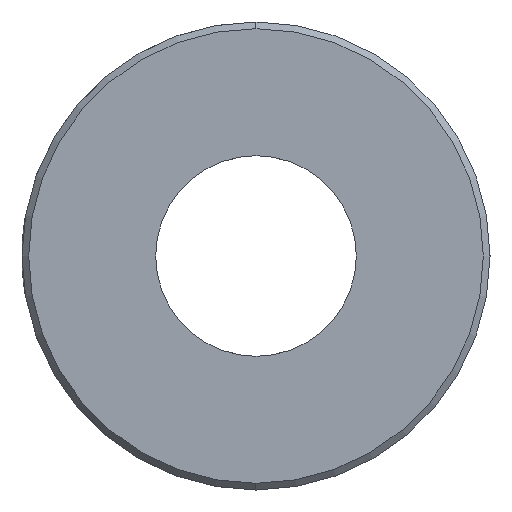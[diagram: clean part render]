
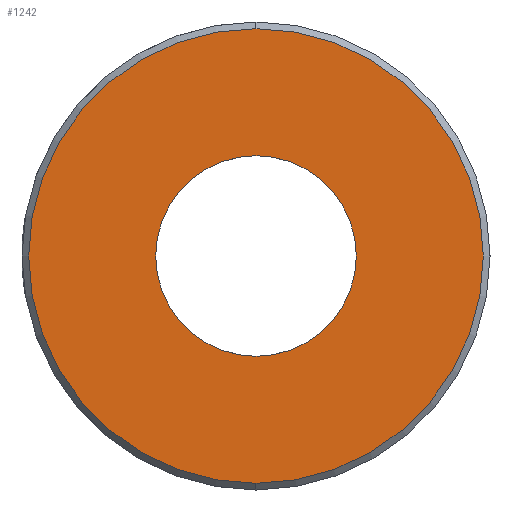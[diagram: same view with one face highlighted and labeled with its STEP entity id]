
A CAD part, left-side view. The second image highlights one B-rep face of the part: STEP entity #1242.
In plain terms, the highlighted planar face has unit normal (-1, 0, 0) as drawn and (0, 0, 1) by its records, which use the part's own axes.
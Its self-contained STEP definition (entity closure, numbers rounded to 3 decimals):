
#87 = ORIENTED_EDGE ( 'NONE', *, *, #1438, .T. ) ;
#113 = ORIENTED_EDGE ( 'NONE', *, *, #399, .F. ) ;
#142 = VERTEX_POINT ( 'NONE', #639 ) ;
#155 = VERTEX_POINT ( 'NONE', #610 ) ;
#156 = DIRECTION ( 'NONE',  ( 1., 0., 0. ) ) ;
#170 = CARTESIAN_POINT ( 'NONE',  ( 0., 0., 2.8 ) ) ;
#177 = CARTESIAN_POINT ( 'NONE',  ( 0., 0., 2.8 ) ) ;
#191 = ORIENTED_EDGE ( 'NONE', *, *, #1826, .T. ) ;
#273 = CIRCLE ( 'NONE', #1380, 6.8 ) ;
#331 = CARTESIAN_POINT ( 'NONE',  ( 6.8, 0., 2.8 ) ) ;
#399 = EDGE_CURVE ( 'NONE', #155, #644, #1758, .T. ) ;
#436 = FACE_OUTER_BOUND ( 'NONE', #1417, .T. ) ;
#539 = VERTEX_POINT ( 'NONE', #331 ) ;
#562 = DIRECTION ( 'NONE',  ( 0., 0., 1. ) ) ;
#590 = DIRECTION ( 'NONE',  ( 0., 0., 1. ) ) ;
#610 = CARTESIAN_POINT ( 'NONE',  ( -3., 0., 2.8 ) ) ;
#639 = CARTESIAN_POINT ( 'NONE',  ( -6.8, 0., 2.8 ) ) ;
#644 = VERTEX_POINT ( 'NONE', #1238 ) ;
#683 = CARTESIAN_POINT ( 'NONE',  ( 0., 0., 2.8 ) ) ;
#692 = AXIS2_PLACEMENT_3D ( 'NONE', #170, #590, #970 ) ;
#737 = ORIENTED_EDGE ( 'NONE', *, *, #1709, .F. ) ;
#751 = CIRCLE ( 'NONE', #1782, 3. ) ;
#970 = DIRECTION ( 'NONE',  ( 1., 0., 0. ) ) ;
#1017 = DIRECTION ( 'NONE',  ( 1., 0., 0. ) ) ;
#1029 = DIRECTION ( 'NONE',  ( 1., 0., 0. ) ) ;
#1101 = EDGE_LOOP ( 'NONE', ( #113, #737 ) ) ;
#1159 = CARTESIAN_POINT ( 'NONE',  ( 0., 0., 2.8 ) ) ;
#1178 = DIRECTION ( 'NONE',  ( 0., 0., 1. ) ) ;
#1214 = DIRECTION ( 'NONE',  ( 0., 0., 1. ) ) ;
#1238 = CARTESIAN_POINT ( 'NONE',  ( 3., 0., 2.8 ) ) ;
#1242 = ADVANCED_FACE ( 'NONE', ( #436, #1598 ), #1468, .T. ) ;
#1253 = AXIS2_PLACEMENT_3D ( 'NONE', #683, #562, #1275 ) ;
#1275 = DIRECTION ( 'NONE',  ( 1., 0., 0. ) ) ;
#1329 = CARTESIAN_POINT ( 'NONE',  ( 0., 0., 2.8 ) ) ;
#1380 = AXIS2_PLACEMENT_3D ( 'NONE', #1329, #1597, #156 ) ;
#1412 = AXIS2_PLACEMENT_3D ( 'NONE', #1159, #1178, #1017 ) ;
#1417 = EDGE_LOOP ( 'NONE', ( #87, #191 ) ) ;
#1438 = EDGE_CURVE ( 'NONE', #142, #539, #1464, .T. ) ;
#1464 = CIRCLE ( 'NONE', #1253, 6.8 ) ;
#1468 = PLANE ( 'NONE',  #692 ) ;
#1597 = DIRECTION ( 'NONE',  ( 0., 0., 1. ) ) ;
#1598 = FACE_BOUND ( 'NONE', #1101, .T. ) ;
#1709 = EDGE_CURVE ( 'NONE', #644, #155, #751, .T. ) ;
#1758 = CIRCLE ( 'NONE', #1412, 3. ) ;
#1782 = AXIS2_PLACEMENT_3D ( 'NONE', #177, #1214, #1029 ) ;
#1826 = EDGE_CURVE ( 'NONE', #539, #142, #273, .T. ) ;
